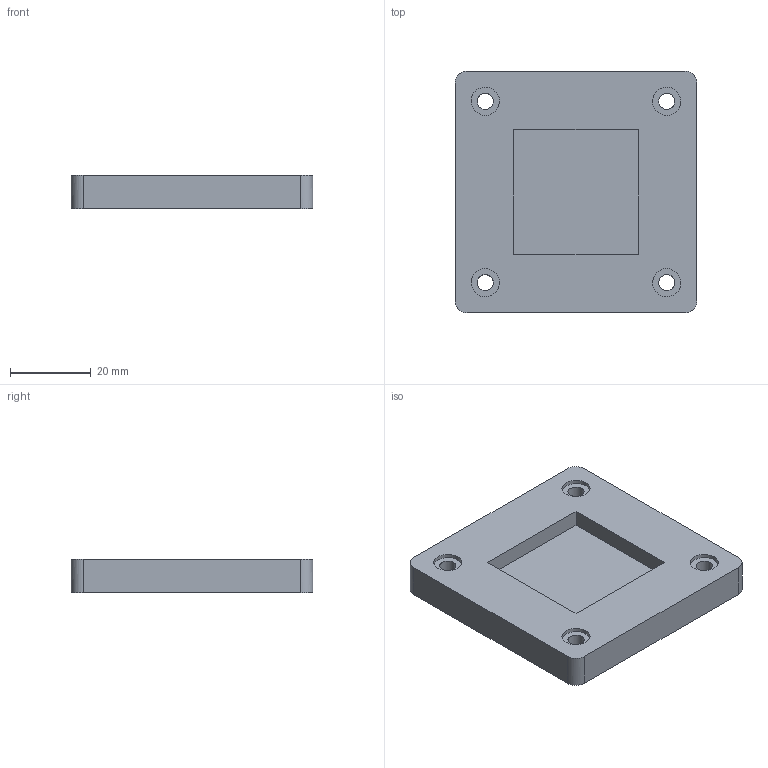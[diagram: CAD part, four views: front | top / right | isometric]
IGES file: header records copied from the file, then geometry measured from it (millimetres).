
Global section: file name: Probe holder v4; native system: unknown; preprocessor: unknown; author: unknown; organization: unknown; date: 20230704.114643; units: millimetre
Bounding box: 60 x 60 x 8.2 mm (x, y, z)
Volume: 24904.5 mm3; surface area: 9980.6 mm2
Topology: 1 solids, 1 shells, 27 faces, 72 edges, 52 vertices
Faces by surface type: bspline 27
